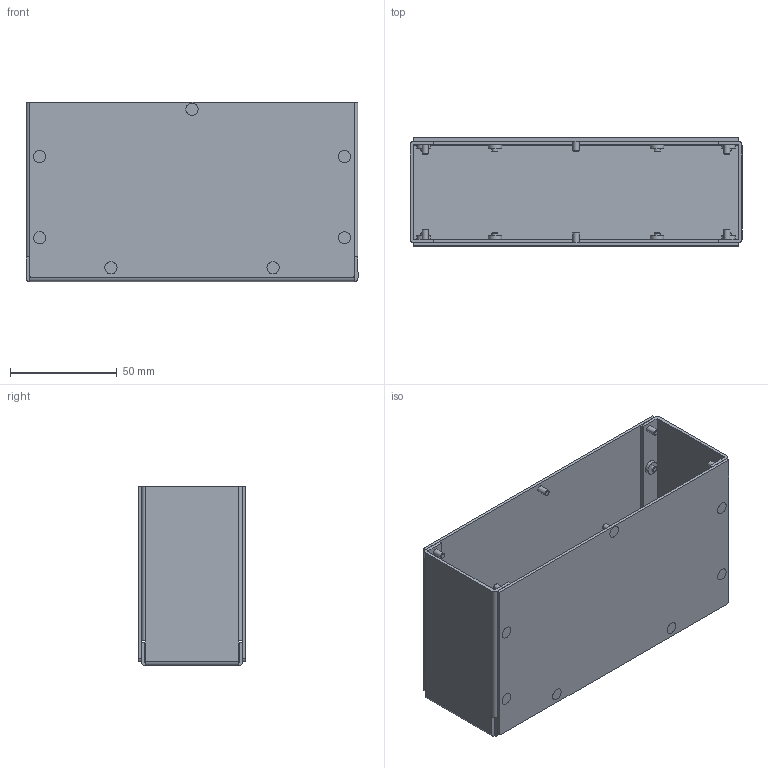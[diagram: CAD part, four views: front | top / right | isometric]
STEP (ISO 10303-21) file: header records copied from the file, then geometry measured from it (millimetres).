
FILE_DESCRIPTION((''),'2;1');
FILE_NAME('C:\old_Drawings\shrinkwrapped website .stp files\561489-STP.stp','2011-06-22T16:24:09',('GaryRobinson'),(''),'Autodesk Inventor 2011','Autodesk Inventor 2011','');
FILE_SCHEMA(('CONFIG_CONTROL_DESIGN'));
Length unit declared in the file: inch
Products named in the file (1): 561489-STP
Bounding box: 155.83 x 50.67 x 84.08 mm (x, y, z)
Surface area: 96743.8 mm2 (no closed solid volume)
Topology: 0 solids, 29 shells, 200 faces, 342 edges, 208 vertices
Faces by surface type: plane 110, cylinder 54, cone 36
Full cylindrical faces by diameter (mm): 2.845 x18, 4.191 x8, 6.35 x8
Entity records: 4630 total; most frequent: DIRECTION 818, CARTESIAN_POINT 681, ORIENTED_EDGE 544, AXIS2_PLACEMENT_3D 345, EDGE_LOOP 278, EDGE_CURVE 272, VERTEX_POINT 208, FACE_OUTER_BOUND 200
